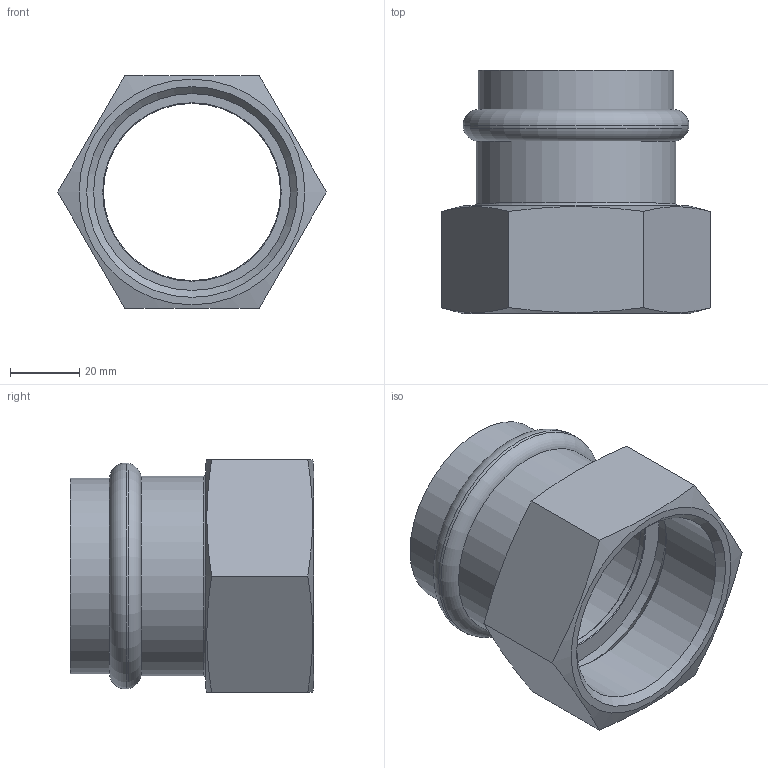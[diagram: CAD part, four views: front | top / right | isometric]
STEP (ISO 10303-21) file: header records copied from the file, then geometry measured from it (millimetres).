
FILE_DESCRIPTION(/* description */ (''),/* implementation_level */ '2;1');
FILE_NAME(/* name */ 'C:\Users\Vault\Desktop\Articoli_INOXPRES UNIKO\190_INOXPRES_UNIKO\190200054U_Inoxpres_Uniko.stp',/* time_stamp */ '2022-10-06T11:35:56+02:00',/* author */ ('Vault'),/* organization */ ('Raccorderie metalliche s.p.a. '),/* preprocessor_version */ 'ST-DEVELOPER v18.1',/* originating_system */ 'Autodesk Inventor 2020',/* authorisation */ 'Raccorderie metalliche s.p.a. ');
FILE_SCHEMA (('AUTOMOTIVE_DESIGN { 1 0 10303 214 3 1 1 }'));
Length unit declared in the file: millimetre
Products named in the file (1): 190200054V_Inoxpres_Uniko
Bounding box: 77.36 x 70 x 67 mm (x, y, z)
Volume: 54019.3 mm3; surface area: 31206.6 mm2
Topology: 1 solids, 1 shells, 32 faces, 86 edges, 59 vertices
Faces by surface type: plane 11, cone 8, cylinder 7, torus 6
Full cylindrical faces by diameter (mm): 51 x1, 54.5 x2, 56.3 x1, 56.656 x1, 57.5 x1, 62.5 x1
Entity records: 1072 total; most frequent: CARTESIAN_POINT 206, DIRECTION 189, ORIENTED_EDGE 172, EDGE_CURVE 86, AXIS2_PLACEMENT_3D 84, VERTEX_POINT 59, CIRCLE 51, EDGE_LOOP 37
